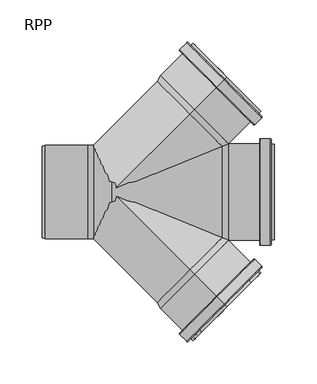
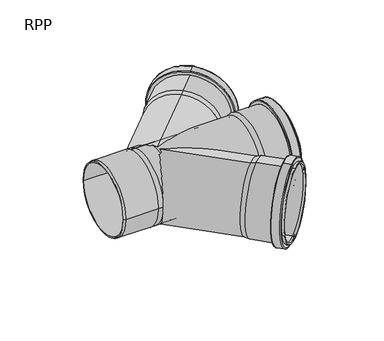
"""IFC4 building model written with IfcOpenShell, lengths in millimetres: pipe fitting geometry, RAUPIANO PLUS Double branch : RPP."""

from ifc_helpers import new_model, si_unit, point, frame, origin, place, context, project, spatial, polyline, circle_curve, ellipse_curve, trimmed, source, transform, mapped, element, save
from ifc_brep_helpers import plane_surface, cylinder_surface, revolved_surface, advanced_brep


def rpp_6e8c38e4(model_context):
    return source(origin(), model_context, "Body", "AdvancedBrep", [
        advanced_brep(
        [(130.4, 55.0, 0.0), (130.4, -55.0, 0.0), (137.6, -56.9292342, 0.0), (137.6, 56.9292342, 0.0), (0.0, 55.0, 0.0), (0.0, -55.0, 0.0), (-21.2659564, 55.0, 0.0), (-21.2659564, -55.0, 0.0), (-28.6, 55.0, 0.0), (-28.6, -55.0, 0.0), (-79.4, 55.0, 0.0), (-79.4, -55.0, 0.0), (-83.0, 54.0353829, 0.0), (-83.0, -54.0353829, 0.0), (-28.6, 52.3, 0.0), (-28.6, -52.3, 0.0), (-83.0, -52.3, 0.0), (-83.0, 52.3, 0.0), (-21.1883429, 52.3, 0.0), (-21.1883429, -52.3, 0.0), (0.0, 52.3, 0.0), (0.0, -52.3, 0.0), (130.4, 52.3, 0.0), (130.4, -52.3, 0.0), (137.6, 54.2292342, 0.0), (137.6, -54.2292342, 0.0), (188.4, 54.2292342, 0.0), (188.4, -54.2292342, 0.0), (192.0, 54.2292342, 0.0), (192.0, -54.2292342, 0.0), (188.4, 56.6076952, 0.0), (188.4, -56.6076952, 0.0), (192.0, -56.6076952, 0.0), (192.0, 56.6076952, 0.0), (187.4, 62.9292342, 0.0), (187.4, -62.9292342, 0.0), (188.4, -61.9292342, 0.0), (188.4, 61.9292342, 0.0), (175.5, 62.9292342, 0.0), (175.5, -62.9292342, 0.0), (174.5, 61.9292342, 0.0), (174.5, -61.9292342, 0.0), (174.5, -56.9292342, 0.0), (174.5, 56.9292342, 0.0)],
        [
            (0, 1, circle_curve(frame((130.4, 0.0, 0.0), z_axis=(1.0, 0.0, 0.0), x_axis=(0.0, -1.0, 0.0)), 55.0)),
            (1, 2),
            (2, 3, circle_curve(frame((137.6, 0.0, 0.0), z_axis=(-1.0, 0.0, 0.0), x_axis=(0.0, -1.0, 0.0)), 56.9292342)),
            (3, 0),
            (0, 4),
            (4, 5, circle_curve(frame((0.0, 0.0, 0.0), z_axis=(1.0, 0.0, 0.0), x_axis=(0.0, -1.0, 0.0)), 55.0)),
            (5, 1),
            (4, 6),
            (6, 7, circle_curve(frame((-21.2659564, 0.0, 0.0), z_axis=(1.0, 0.0, 0.0), x_axis=(0.0, -1.0, 0.0)), 55.0)),
            (7, 5),
            (6, 8),
            (8, 9, circle_curve(frame((-28.6, 0.0, 0.0), z_axis=(1.0, 0.0, 0.0), x_axis=(0.0, -1.0, 0.0)), 55.0)),
            (9, 7),
            (8, 10),
            (10, 11, circle_curve(frame((-79.4, 0.0, 0.0), z_axis=(1.0, 0.0, 0.0), x_axis=(0.0, -1.0, 0.0)), 55.0)),
            (11, 9),
            (10, 12),
            (12, 13, circle_curve(frame((-83.0, 0.0, 0.0), z_axis=(1.0, 0.0, 0.0), x_axis=(0.0, -1.0, 0.0)), 54.0353829)),
            (13, 11),
            (14, 15, circle_curve(frame((-28.6, 0.0, 0.0), z_axis=(1.0, 0.0, 0.0), x_axis=(0.0, -1.0, 0.0)), 52.3)),
            (15, 16),
            (16, 17, circle_curve(frame((-83.0, 0.0, 0.0), z_axis=(-1.0, 0.0, 0.0), x_axis=(0.0, -1.0, 0.0)), 52.3)),
            (17, 14),
            (14, 18),
            (18, 19, circle_curve(frame((-21.1883429, 0.0, 0.0), z_axis=(1.0, 0.0, 0.0), x_axis=(0.0, -1.0, 0.0)), 52.3)),
            (19, 15),
            (18, 20),
            (20, 21, circle_curve(frame((0.0, 0.0, 0.0), z_axis=(1.0, 0.0, 0.0), x_axis=(0.0, -1.0, 0.0)), 52.3)),
            (21, 19),
            (20, 22),
            (22, 23, circle_curve(frame((130.4, 0.0, 0.0), z_axis=(1.0, 0.0, 0.0), x_axis=(0.0, -1.0, 0.0)), 52.3)),
            (23, 21),
            (22, 24),
            (24, 25, circle_curve(frame((137.6, 0.0, 0.0), z_axis=(1.0, 0.0, 0.0), x_axis=(0.0, -1.0, 0.0)), 54.2292342)),
            (25, 23),
            (24, 26),
            (26, 27, circle_curve(frame((188.4, 0.0, 0.0), z_axis=(1.0, 0.0, 0.0), x_axis=(0.0, -1.0, 0.0)), 54.2292342)),
            (27, 25),
            (26, 28),
            (28, 29, circle_curve(frame((192.0, 0.0, 0.0), z_axis=(1.0, 0.0, 0.0), x_axis=(0.0, -1.0, 0.0)), 54.2292342)),
            (29, 27),
            (30, 31, circle_curve(frame((188.4, 0.0, 0.0), z_axis=(1.0, 0.0, 0.0), x_axis=(0.0, -1.0, 0.0)), 56.6076952)),
            (31, 32),
            (32, 33, circle_curve(frame((192.0, 0.0, 0.0), z_axis=(-1.0, 0.0, 0.0), x_axis=(0.0, -1.0, 0.0)), 56.6076952)),
            (33, 30),
            (34, 35, circle_curve(frame((187.4, 0.0, 0.0), z_axis=(1.0, 0.0, 0.0), x_axis=(0.0, -1.0, 0.0)), 62.9292342)),
            (35, 36, circle_curve(frame((187.4, -61.9292342, 0.0), z_axis=(0.0, 0.0, 1.0), x_axis=(1.0, 0.0, 0.0)), 1.0)),
            (36, 37, circle_curve(frame((188.4, 0.0, 0.0), z_axis=(-1.0, 0.0, 0.0), x_axis=(0.0, -1.0, 0.0)), 61.9292342)),
            (37, 34, circle_curve(frame((187.4, 61.9292342, 0.0), z_axis=(0.0, 0.0, 1.0), x_axis=(1.0, 0.0, 0.0)), 1.0)),
            (34, 38),
            (38, 39, circle_curve(frame((175.5, 0.0, 0.0), z_axis=(1.0, 0.0, 0.0), x_axis=(0.0, -1.0, 0.0)), 62.9292342)),
            (39, 35),
            (38, 40, circle_curve(frame((175.5, 61.9292342, 0.0), z_axis=(0.0, 0.0, 1.0), x_axis=(1.0, 0.0, 0.0)), 1.0)),
            (40, 41, circle_curve(frame((174.5, 0.0, 0.0), z_axis=(1.0, 0.0, 0.0), x_axis=(0.0, -1.0, 0.0)), 61.9292342)),
            (41, 39, circle_curve(frame((175.5, -61.9292342, 0.0), z_axis=(0.0, 0.0, 1.0), x_axis=(1.0, 0.0, 0.0)), 1.0)),
            (2, 42),
            (42, 43, circle_curve(frame((174.5, 0.0, 0.0), z_axis=(-1.0, 0.0, 0.0), x_axis=(0.0, -1.0, 0.0)), 56.9292342)),
            (43, 3),
            (1, 0, circle_curve(frame((130.4, 0.0, 0.0), z_axis=(1.0, 0.0, 0.0), x_axis=(0.0, 1.0, 0.0)), 55.0)),
            (3, 2, circle_curve(frame((137.6, 0.0, 0.0), z_axis=(-1.0, 0.0, 0.0), x_axis=(0.0, 1.0, 0.0)), 56.9292342)),
            (5, 4, circle_curve(frame((0.0, 0.0, 0.0), z_axis=(1.0, 0.0, 0.0), x_axis=(0.0, 1.0, 0.0)), 55.0)),
            (7, 6, circle_curve(frame((-21.2659564, 0.0, 0.0), z_axis=(1.0, 0.0, 0.0), x_axis=(0.0, 1.0, 0.0)), 55.0)),
            (9, 8, circle_curve(frame((-28.6, 0.0, 0.0), z_axis=(1.0, 0.0, 0.0), x_axis=(0.0, 1.0, 0.0)), 55.0)),
            (11, 10, circle_curve(frame((-79.4, 0.0, 0.0), z_axis=(1.0, 0.0, 0.0), x_axis=(0.0, 1.0, 0.0)), 55.0)),
            (13, 12, circle_curve(frame((-83.0, 0.0, 0.0), z_axis=(1.0, 0.0, 0.0), x_axis=(0.0, 1.0, 0.0)), 54.0353829)),
            (16, 17, circle_curve(frame((-83.0, 0.0, 0.0), z_axis=(1.0, 0.0, 0.0), x_axis=(0.0, 1.0, 0.0)), 52.3)),
            (15, 14, circle_curve(frame((-28.6, 0.0, 0.0), z_axis=(1.0, 0.0, 0.0), x_axis=(0.0, 1.0, 0.0)), 52.3)),
            (19, 18, circle_curve(frame((-21.1883429, 0.0, 0.0), z_axis=(1.0, 0.0, 0.0), x_axis=(0.0, 1.0, 0.0)), 52.3)),
            (21, 20, circle_curve(frame((0.0, 0.0, 0.0), z_axis=(1.0, 0.0, 0.0), x_axis=(0.0, 1.0, 0.0)), 52.3)),
            (23, 22, circle_curve(frame((130.4, 0.0, 0.0), z_axis=(1.0, 0.0, 0.0), x_axis=(0.0, 1.0, 0.0)), 52.3)),
            (25, 24, circle_curve(frame((137.6, 0.0, 0.0), z_axis=(1.0, 0.0, 0.0), x_axis=(0.0, 1.0, 0.0)), 54.2292342)),
            (27, 26, circle_curve(frame((188.4, 0.0, 0.0), z_axis=(1.0, 0.0, 0.0), x_axis=(0.0, 1.0, 0.0)), 54.2292342)),
            (29, 28, circle_curve(frame((192.0, 0.0, 0.0), z_axis=(1.0, 0.0, 0.0), x_axis=(0.0, 1.0, 0.0)), 54.2292342)),
            (32, 33, circle_curve(frame((192.0, 0.0, 0.0), z_axis=(1.0, 0.0, 0.0), x_axis=(0.0, 1.0, 0.0)), 56.6076952)),
            (31, 30, circle_curve(frame((188.4, 0.0, 0.0), z_axis=(1.0, 0.0, 0.0), x_axis=(0.0, 1.0, 0.0)), 56.6076952)),
            (36, 37, circle_curve(frame((188.4, 0.0, 0.0), z_axis=(1.0, 0.0, 0.0), x_axis=(0.0, 1.0, 0.0)), 61.9292342)),
            (35, 34, circle_curve(frame((187.4, 0.0, 0.0), z_axis=(1.0, 0.0, 0.0), x_axis=(0.0, 1.0, 0.0)), 62.9292342)),
            (39, 38, circle_curve(frame((175.5, 0.0, 0.0), z_axis=(1.0, 0.0, 0.0), x_axis=(0.0, 1.0, 0.0)), 62.9292342)),
            (41, 40, circle_curve(frame((174.5, 0.0, 0.0), z_axis=(1.0, 0.0, 0.0), x_axis=(0.0, 1.0, 0.0)), 61.9292342)),
            (42, 43, circle_curve(frame((174.5, 0.0, 0.0), z_axis=(1.0, 0.0, 0.0), x_axis=(0.0, 1.0, 0.0)), 56.9292342)),
        ],
        [
            revolved_surface(polyline([(137.6, -56.9292342, 0.0), (130.4, -55.0, 0.0)]), (0.0, 0.0, 0.0), (-1.0, 0.0, 0.0)),
            cylinder_surface(frame((0.0, 0.0, 0.0), z_axis=(-1.0, 0.0, 0.0), x_axis=(0.0, -1.0, 0.0)), 55.0),
            revolved_surface(polyline([(-79.4, -55.0, 0.0), (-83.0, -54.0353829, 0.0)]), (0.0, 0.0, 0.0), (-1.0, 0.0, 0.0)),
            revolved_surface(polyline([(-83.0, -52.3, 0.0), (-28.6, -52.3, 0.0)]), (0.0, 0.0, 0.0), (-1.0, 0.0, 0.0)),
            revolved_surface(polyline([(-28.6, -52.3, 0.0), (-21.1883429, -52.3, 0.0)]), (0.0, 0.0, 0.0), (-1.0, 0.0, 0.0)),
            revolved_surface(polyline([(-21.1883429, -52.3, 0.0), (0.0, -52.3, 0.0)]), (0.0, 0.0, 0.0), (-1.0, 0.0, 0.0)),
            revolved_surface(polyline([(0.0, -52.3, 0.0), (130.4, -52.3, 0.0)]), (0.0, 0.0, 0.0), (-1.0, 0.0, 0.0)),
            revolved_surface(polyline([(130.4, -52.3, 0.0), (137.6, -54.2292342, 0.0)]), (0.0, 0.0, 0.0), (-1.0, 0.0, 0.0)),
            revolved_surface(polyline([(137.6, -54.2292342, 0.0), (188.4, -54.2292342, 0.0)]), (0.0, 0.0, 0.0), (-1.0, 0.0, 0.0)),
            revolved_surface(polyline([(188.4, -54.2292342, 0.0), (192.0, -54.2292342, 0.0)]), (0.0, 0.0, 0.0), (-1.0, 0.0, 0.0)),
            cylinder_surface(frame((0.0, 0.0, 0.0), z_axis=(-1.0, 0.0, 0.0), x_axis=(0.0, -1.0, 0.0)), 56.6076952),
            revolved_surface(trimmed(ellipse_curve(frame((187.4, -61.9292342, 0.0), z_axis=(0.0, 0.0, -1.0), x_axis=(1.0, 0.0, 0.0)), 1.0, 1.0), [point((188.4, -61.9292342, 0.0))], [point((187.4, -62.9292342, 0.0))], True, "CARTESIAN"), (0.0, 0.0, 0.0), (-1.0, 0.0, 0.0)),
            cylinder_surface(frame((0.0, 0.0, 0.0), z_axis=(-1.0, 0.0, 0.0), x_axis=(0.0, -1.0, 0.0)), 62.9292342),
            revolved_surface(trimmed(ellipse_curve(frame((175.5, -61.9292342, 0.0), z_axis=(0.0, 0.0, -1.0), x_axis=(1.0, 0.0, 0.0)), 1.0, 1.0), [point((175.5, -62.9292342, 0.0))], [point((174.5, -61.9292342, 0.0))], True, "CARTESIAN"), (0.0, 0.0, 0.0), (-1.0, 0.0, 0.0)),
            cylinder_surface(frame((0.0, 0.0, 0.0), z_axis=(-1.0, 0.0, 0.0), x_axis=(0.0, -1.0, 0.0)), 56.9292342),
            revolved_surface(polyline([(137.6, 56.9292342, 0.0), (130.4, 55.0, 0.0)]), (0.0, 0.0, 0.0), (-1.0, 0.0, 0.0)),
            cylinder_surface(frame((0.0, 0.0, 0.0), z_axis=(-1.0, 0.0, 0.0), x_axis=(0.0, 1.0, 0.0)), 55.0),
            revolved_surface(polyline([(-79.4, 55.0, 0.0), (-83.0, 54.0353829, 0.0)]), (0.0, 0.0, 0.0), (-1.0, 0.0, 0.0)),
            plane_surface(frame((-83.0, 0.0, 0.0), z_axis=(-1.0, 0.0, 0.0), x_axis=(0.0, 1.0, 0.0))),
            revolved_surface(polyline([(-83.0, 52.3, 0.0), (-28.6, 52.3, 0.0)]), (0.0, 0.0, 0.0), (-1.0, 0.0, 0.0)),
            revolved_surface(polyline([(-28.6, 52.3, 0.0), (-21.1883429, 52.3, 0.0)]), (0.0, 0.0, 0.0), (-1.0, 0.0, 0.0)),
            revolved_surface(polyline([(-21.1883429, 52.3, 0.0), (0.0, 52.3, 0.0)]), (0.0, 0.0, 0.0), (-1.0, 0.0, 0.0)),
            revolved_surface(polyline([(0.0, 52.3, 0.0), (130.4, 52.3, 0.0)]), (0.0, 0.0, 0.0), (-1.0, 0.0, 0.0)),
            revolved_surface(polyline([(130.4, 52.3, 0.0), (137.6, 54.2292342, 0.0)]), (0.0, 0.0, 0.0), (-1.0, 0.0, 0.0)),
            revolved_surface(polyline([(137.6, 54.2292342, 0.0), (188.4, 54.2292342, 0.0)]), (0.0, 0.0, 0.0), (-1.0, 0.0, 0.0)),
            revolved_surface(polyline([(188.4, 54.2292342, 0.0), (192.0, 54.2292342, 0.0)]), (0.0, 0.0, 0.0), (-1.0, 0.0, 0.0)),
            plane_surface(frame((192.0, 0.0, 0.0), z_axis=(1.0, 0.0, 0.0), x_axis=(0.0, 1.0, 0.0))),
            cylinder_surface(frame((0.0, 0.0, 0.0), z_axis=(-1.0, 0.0, 0.0), x_axis=(0.0, 1.0, 0.0)), 56.6076952),
            plane_surface(frame((188.4, 0.0, 0.0), z_axis=(1.0, 0.0, 0.0), x_axis=(0.0, 1.0, 0.0))),
            revolved_surface(trimmed(ellipse_curve(frame((187.4, 61.9292342, 0.0), z_axis=(0.0, 0.0, 1.0), x_axis=(1.0, 0.0, 0.0)), 1.0, 1.0), [point((188.4, 61.9292342, 0.0))], [point((187.4, 62.9292342, 0.0))], True, "CARTESIAN"), (0.0, 0.0, 0.0), (-1.0, 0.0, 0.0)),
            cylinder_surface(frame((0.0, 0.0, 0.0), z_axis=(-1.0, 0.0, 0.0), x_axis=(0.0, 1.0, 0.0)), 62.9292342),
            revolved_surface(trimmed(ellipse_curve(frame((175.5, 61.9292342, 0.0), z_axis=(0.0, 0.0, 1.0), x_axis=(1.0, 0.0, 0.0)), 1.0, 1.0), [point((175.5, 62.9292342, 0.0))], [point((174.5, 61.9292342, 0.0))], True, "CARTESIAN"), (0.0, 0.0, 0.0), (-1.0, 0.0, 0.0)),
            plane_surface(frame((174.5, 0.0, 0.0), z_axis=(-1.0, 0.0, 0.0), x_axis=(0.0, 1.0, 0.0))),
            cylinder_surface(frame((0.0, 0.0, 0.0), z_axis=(-1.0, 0.0, 0.0), x_axis=(0.0, 1.0, 0.0)), 56.9292342),
        ],
        [
            (0, [[1, 2, 3, 4]]),
            (1, [[-1, 5, 6, 7]]),
            (1, [[-6, 8, 9, 10]]),
            (1, [[-9, 11, 12, 13]]),
            (1, [[-12, 14, 15, 16]]),
            (2, [[-15, 17, 18, 19]]),
            (3, [[20, 21, 22, 23]]),
            (4, [[-20, 24, 25, 26]]),
            (5, [[-25, 27, 28, 29]]),
            (6, [[-28, 30, 31, 32]]),
            (7, [[-31, 33, 34, 35]]),
            (8, [[-34, 36, 37, 38]]),
            (9, [[-37, 39, 40, 41]]),
            (10, [[42, 43, 44, 45]]),
            (11, [[46, 47, 48, 49]]),
            (12, [[-46, 50, 51, 52]]),
            (13, [[-51, 53, 54, 55]]),
            (14, [[-3, 56, 57, 58]]),
            (15, [[-2, 59, -4, 60]]),
            (16, [[-7, 61, -5, -59]]),
            (16, [[-10, 62, -8, -61]]),
            (16, [[-13, 63, -11, -62]]),
            (16, [[-16, 64, -14, -63]]),
            (17, [[-19, 65, -17, -64]]),
            (18, [[-18, -65], [-22, 66]]),
            (19, [[-21, 67, -23, -66]]),
            (20, [[-26, 68, -24, -67]]),
            (21, [[-29, 69, -27, -68]]),
            (22, [[-32, 70, -30, -69]]),
            (23, [[-35, 71, -33, -70]]),
            (24, [[-38, 72, -36, -71]]),
            (25, [[-41, 73, -39, -72]]),
            (26, [[-44, 74], [-40, -73]]),
            (27, [[-43, 75, -45, -74]]),
            (28, [[-48, 76], [-42, -75]]),
            (29, [[-47, 77, -49, -76]]),
            (30, [[-52, 78, -50, -77]]),
            (31, [[-55, 79, -53, -78]]),
            (32, [[-54, -79], [-57, 80]]),
            (33, [[-56, -60, -58, -80]]),
        ],
    ),
        advanced_brep(
        [(92.2067243, -92.2067243, 55.0), (92.2067243, -92.2067243, -55.0), (97.2978931, -97.2978931, -56.9292342), (97.2978931, -97.2978931, 56.9292342), (97.2978931, -97.2978931, 54.2292342), (97.2978931, -97.2978931, -54.2292342), (92.2067243, -92.2067243, -52.3), (92.2067243, -92.2067243, 52.3), (133.2189176, -133.2189176, 54.2292342), (133.2189176, -133.2189176, -54.2292342), (135.764502, -135.764502, 54.2292342), (135.764502, -135.764502, -54.2292342), (133.2189176, -133.2189176, 56.6076952), (133.2189176, -133.2189176, -56.6076952), (135.764502, -135.764502, -56.6076952), (135.764502, -135.764502, 56.6076952), (132.5118108, -132.5118108, 62.9292342), (132.5118108, -132.5118108, -62.9292342), (133.2189176, -133.2189176, -61.9292342), (133.2189176, -133.2189176, 61.9292342), (124.0972401, -124.0972401, 62.9292342), (124.0972401, -124.0972401, -62.9292342), (123.3901333, -123.3901333, 61.9292342), (123.3901333, -123.3901333, -61.9292342), (123.3901333, -123.3901333, -56.9292342), (123.3901333, -123.3901333, 56.9292342)],
        [
            (0, 1, circle_curve(frame((92.2067243, -92.2067243, 0.0), z_axis=(0.7071067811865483, -0.7071067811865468, 0.0), x_axis=(0.0, 0.0, -1.0)), 55.0)),
            (1, 2),
            (2, 3, circle_curve(frame((97.2978931, -97.2978931, 0.0), z_axis=(-0.7071067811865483, 0.7071067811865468, 0.0), x_axis=(0.0, 0.0, -1.0)), 56.9292342)),
            (3, 0),
            (4, 5, circle_curve(frame((97.2978931, -97.2978931, 0.0), z_axis=(0.7071067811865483, -0.7071067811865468, 0.0), x_axis=(0.0, 0.0, -1.0)), 54.2292342)),
            (5, 6),
            (6, 7, circle_curve(frame((92.2067243, -92.2067243, 0.0), z_axis=(-0.7071067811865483, 0.7071067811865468, 0.0), x_axis=(0.0, 0.0, -1.0)), 52.3)),
            (7, 4),
            (8, 9, circle_curve(frame((133.2189176, -133.2189176, 0.0), z_axis=(0.7071067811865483, -0.7071067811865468, 0.0), x_axis=(0.0, 0.0, -1.0)), 54.2292342)),
            (9, 5),
            (4, 8),
            (10, 11, circle_curve(frame((135.764502, -135.764502, 0.0), z_axis=(0.7071067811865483, -0.7071067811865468, 0.0), x_axis=(0.0, 0.0, -1.0)), 54.2292342)),
            (11, 9),
            (8, 10),
            (12, 13, circle_curve(frame((133.2189176, -133.2189176, 0.0), z_axis=(0.7071067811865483, -0.7071067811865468, 0.0), x_axis=(0.0, 0.0, -1.0)), 56.6076952)),
            (13, 14),
            (14, 15, circle_curve(frame((135.764502, -135.764502, 0.0), z_axis=(-0.7071067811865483, 0.7071067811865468, 0.0), x_axis=(0.0, 0.0, -1.0)), 56.6076952)),
            (15, 12),
            (16, 17, circle_curve(frame((132.5118108, -132.5118108, 0.0), z_axis=(0.7071067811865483, -0.7071067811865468, 0.0), x_axis=(0.0, 0.0, -1.0)), 62.9292342)),
            (17, 18, circle_curve(frame((132.5118108, -132.5118108, -61.9292342), z_axis=(-0.7071067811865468, -0.7071067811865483, 0.0), x_axis=(0.7071067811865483, -0.7071067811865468, 0.0)), 1.0)),
            (18, 19, circle_curve(frame((133.2189176, -133.2189176, 0.0), z_axis=(-0.7071067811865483, 0.7071067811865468, 0.0), x_axis=(0.0, 0.0, -1.0)), 61.9292342)),
            (19, 16, circle_curve(frame((132.5118108, -132.5118108, 61.9292342), z_axis=(-0.7071067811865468, -0.7071067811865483, 0.0), x_axis=(0.7071067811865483, -0.7071067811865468, 0.0)), 1.0)),
            (20, 21, circle_curve(frame((124.0972401, -124.0972401, 0.0), z_axis=(0.7071067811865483, -0.7071067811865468, 0.0), x_axis=(0.0, 0.0, -1.0)), 62.9292342)),
            (21, 17),
            (16, 20),
            (22, 23, circle_curve(frame((123.3901333, -123.3901333, 0.0), z_axis=(0.7071067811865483, -0.7071067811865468, 0.0), x_axis=(0.0, 0.0, -1.0)), 61.9292342)),
            (23, 21, circle_curve(frame((124.0972401, -124.0972401, -61.9292342), z_axis=(-0.7071067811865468, -0.7071067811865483, 0.0), x_axis=(0.7071067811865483, -0.7071067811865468, 0.0)), 1.0)),
            (20, 22, circle_curve(frame((124.0972401, -124.0972401, 61.9292342), z_axis=(-0.7071067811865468, -0.7071067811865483, 0.0), x_axis=(0.7071067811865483, -0.7071067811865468, 0.0)), 1.0)),
            (2, 24),
            (24, 25, circle_curve(frame((123.3901333, -123.3901333, 0.0), z_axis=(-0.7071067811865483, 0.7071067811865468, 0.0), x_axis=(0.0, 0.0, -1.0)), 56.9292342)),
            (25, 3),
            (1, 0, circle_curve(frame((92.2067243, -92.2067243, 0.0), z_axis=(0.7071067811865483, -0.7071067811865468, 0.0), x_axis=(0.0, 0.0, 1.0)), 55.0)),
            (3, 2, circle_curve(frame((97.2978931, -97.2978931, 0.0), z_axis=(-0.7071067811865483, 0.7071067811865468, 0.0), x_axis=(0.0, 0.0, 1.0)), 56.9292342)),
            (6, 7, circle_curve(frame((92.2067243, -92.2067243, 0.0), z_axis=(0.7071067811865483, -0.7071067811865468, 0.0), x_axis=(0.0, 0.0, 1.0)), 52.3)),
            (5, 4, circle_curve(frame((97.2978931, -97.2978931, 0.0), z_axis=(0.7071067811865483, -0.7071067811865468, 0.0), x_axis=(0.0, 0.0, 1.0)), 54.2292342)),
            (9, 8, circle_curve(frame((133.2189176, -133.2189176, 0.0), z_axis=(0.7071067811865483, -0.7071067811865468, 0.0), x_axis=(0.0, 0.0, 1.0)), 54.2292342)),
            (11, 10, circle_curve(frame((135.764502, -135.764502, 0.0), z_axis=(0.7071067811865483, -0.7071067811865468, 0.0), x_axis=(0.0, 0.0, 1.0)), 54.2292342)),
            (14, 15, circle_curve(frame((135.764502, -135.764502, 0.0), z_axis=(0.7071067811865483, -0.7071067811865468, 0.0), x_axis=(0.0, 0.0, 1.0)), 56.6076952)),
            (13, 12, circle_curve(frame((133.2189176, -133.2189176, 0.0), z_axis=(0.7071067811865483, -0.7071067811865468, 0.0), x_axis=(0.0, 0.0, 1.0)), 56.6076952)),
            (18, 19, circle_curve(frame((133.2189176, -133.2189176, 0.0), z_axis=(0.7071067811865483, -0.7071067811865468, 0.0), x_axis=(0.0, 0.0, 1.0)), 61.9292342)),
            (17, 16, circle_curve(frame((132.5118108, -132.5118108, 0.0), z_axis=(0.7071067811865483, -0.7071067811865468, 0.0), x_axis=(0.0, 0.0, 1.0)), 62.9292342)),
            (21, 20, circle_curve(frame((124.0972401, -124.0972401, 0.0), z_axis=(0.7071067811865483, -0.7071067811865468, 0.0), x_axis=(0.0, 0.0, 1.0)), 62.9292342)),
            (23, 22, circle_curve(frame((123.3901333, -123.3901333, 0.0), z_axis=(0.7071067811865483, -0.7071067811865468, 0.0), x_axis=(0.0, 0.0, 1.0)), 61.9292342)),
            (24, 25, circle_curve(frame((123.3901333, -123.3901333, 0.0), z_axis=(0.7071067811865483, -0.7071067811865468, 0.0), x_axis=(0.0, 0.0, 1.0)), 56.9292342)),
        ],
        [
            revolved_surface(polyline([(97.2978931, -97.2978931, -56.9292342), (92.2067243, -92.2067243, -55.0)]), (0.0, 0.0, 0.0), (-0.7071067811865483, 0.7071067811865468, 0.0)),
            revolved_surface(polyline([(92.2067243, -92.2067243, -52.3), (97.2978931, -97.2978931, -54.2292342)]), (0.0, 0.0, 0.0), (-0.7071067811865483, 0.7071067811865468, 0.0)),
            revolved_surface(polyline([(97.29789310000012, -97.29789309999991, -54.2292342), (133.21891760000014, -133.21891759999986, -54.2292342)]), (0.0, 0.0, 0.0), (-0.7071067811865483, 0.7071067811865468, 0.0)),
            revolved_surface(polyline([(133.21891760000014, -133.21891759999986, -54.2292342), (135.76450200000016, -135.76450199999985, -54.2292342)]), (0.0, 0.0, 0.0), (-0.7071067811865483, 0.7071067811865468, 0.0)),
            cylinder_surface(frame((0.0, 0.0, 0.0), z_axis=(-0.7071067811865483, 0.7071067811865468, 0.0), x_axis=(0.0, 0.0, -1.0)), 56.6076952),
            revolved_surface(trimmed(ellipse_curve(frame((132.5118108, -132.5118108, -61.9292342), z_axis=(0.7071067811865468, 0.7071067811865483, 0.0), x_axis=(0.7071067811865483, -0.7071067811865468, 0.0)), 1.0, 1.0), [point((133.2189176, -133.2189176, -61.9292342))], [point((132.5118108, -132.5118108, -62.9292342))], True, "CARTESIAN"), (0.0, 0.0, 0.0), (-0.7071067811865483, 0.7071067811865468, 0.0)),
            cylinder_surface(frame((0.0, 0.0, 0.0), z_axis=(-0.7071067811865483, 0.7071067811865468, 0.0), x_axis=(0.0, 0.0, -1.0)), 62.9292342),
            revolved_surface(trimmed(ellipse_curve(frame((124.0972401, -124.0972401, -61.9292342), z_axis=(0.7071067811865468, 0.7071067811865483, 0.0), x_axis=(0.7071067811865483, -0.7071067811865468, 0.0)), 1.0, 1.0), [point((124.0972401, -124.0972401, -62.9292342))], [point((123.3901333, -123.3901333, -61.9292342))], True, "CARTESIAN"), (0.0, 0.0, 0.0), (-0.7071067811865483, 0.7071067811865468, 0.0)),
            cylinder_surface(frame((0.0, 0.0, 0.0), z_axis=(-0.7071067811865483, 0.7071067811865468, 0.0), x_axis=(0.0, 0.0, -1.0)), 56.9292342),
            revolved_surface(polyline([(97.2978931, -97.2978931, 56.9292342), (92.2067243, -92.2067243, 55.0)]), (0.0, 0.0, 0.0), (-0.7071067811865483, 0.7071067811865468, 0.0)),
            plane_surface(frame((92.2067243, -92.2067243, 0.0), z_axis=(-0.7071067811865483, 0.7071067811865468, 0.0), x_axis=(0.0, 0.0, 1.0))),
            revolved_surface(polyline([(92.2067243, -92.2067243, 52.3), (97.2978931, -97.2978931, 54.2292342)]), (0.0, 0.0, 0.0), (-0.7071067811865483, 0.7071067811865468, 0.0)),
            revolved_surface(polyline([(97.29789310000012, -97.29789309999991, 54.2292342), (133.21891760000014, -133.21891759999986, 54.2292342)]), (0.0, 0.0, 0.0), (-0.7071067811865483, 0.7071067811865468, 0.0)),
            revolved_surface(polyline([(133.21891760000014, -133.21891759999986, 54.2292342), (135.76450200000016, -135.76450199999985, 54.2292342)]), (0.0, 0.0, 0.0), (-0.7071067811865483, 0.7071067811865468, 0.0)),
            plane_surface(frame((135.764502, -135.764502, 0.0), z_axis=(0.7071067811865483, -0.7071067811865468, 0.0), x_axis=(0.0, 0.0, 1.0))),
            cylinder_surface(frame((0.0, 0.0, 0.0), z_axis=(-0.7071067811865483, 0.7071067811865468, 0.0), x_axis=(0.0, 0.0, 1.0)), 56.6076952),
            plane_surface(frame((133.2189176, -133.2189176, 0.0), z_axis=(0.7071067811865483, -0.7071067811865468, 0.0), x_axis=(0.0, 0.0, 1.0))),
            revolved_surface(trimmed(ellipse_curve(frame((132.5118108, -132.5118108, 61.9292342), z_axis=(-0.7071067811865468, -0.7071067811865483, 0.0), x_axis=(0.7071067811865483, -0.7071067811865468, 0.0)), 1.0, 1.0), [point((133.2189176, -133.2189176, 61.9292342))], [point((132.5118108, -132.5118108, 62.9292342))], True, "CARTESIAN"), (0.0, 0.0, 0.0), (-0.7071067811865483, 0.7071067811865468, 0.0)),
            cylinder_surface(frame((0.0, 0.0, 0.0), z_axis=(-0.7071067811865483, 0.7071067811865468, 0.0), x_axis=(0.0, 0.0, 1.0)), 62.9292342),
            revolved_surface(trimmed(ellipse_curve(frame((124.0972401, -124.0972401, 61.9292342), z_axis=(-0.7071067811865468, -0.7071067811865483, 0.0), x_axis=(0.7071067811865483, -0.7071067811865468, 0.0)), 1.0, 1.0), [point((124.0972401, -124.0972401, 62.9292342))], [point((123.3901333, -123.3901333, 61.9292342))], True, "CARTESIAN"), (0.0, 0.0, 0.0), (-0.7071067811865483, 0.7071067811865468, 0.0)),
            plane_surface(frame((123.3901333, -123.3901333, 0.0), z_axis=(-0.7071067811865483, 0.7071067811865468, 0.0), x_axis=(0.0, 0.0, 1.0))),
            cylinder_surface(frame((0.0, 0.0, 0.0), z_axis=(-0.7071067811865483, 0.7071067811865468, 0.0), x_axis=(0.0, 0.0, 1.0)), 56.9292342),
        ],
        [
            (0, [[1, 2, 3, 4]]),
            (1, [[5, 6, 7, 8]]),
            (2, [[9, 10, -5, 11]]),
            (3, [[12, 13, -9, 14]]),
            (4, [[15, 16, 17, 18]]),
            (5, [[19, 20, 21, 22]]),
            (6, [[23, 24, -19, 25]]),
            (7, [[26, 27, -23, 28]]),
            (8, [[-3, 29, 30, 31]]),
            (9, [[32, -4, 33, -2]]),
            (10, [[-32, -1], [34, -7]]),
            (11, [[35, -8, -34, -6]]),
            (12, [[36, -11, -35, -10]]),
            (13, [[37, -14, -36, -13]]),
            (14, [[38, -17], [-37, -12]]),
            (15, [[39, -18, -38, -16]]),
            (16, [[40, -21], [-39, -15]]),
            (17, [[41, -22, -40, -20]]),
            (18, [[42, -25, -41, -24]]),
            (19, [[43, -28, -42, -27]]),
            (20, [[-43, -26], [44, -30]]),
            (21, [[-33, -31, -44, -29]]),
        ],
    ),
        advanced_brep(
        [(92.2067243, -92.2067243, 55.0), (92.2067243, -92.2067243, -55.0), (97.2978931, -97.2978931, -56.9292342), (97.2978931, -97.2978931, 56.9292342), (0.0, 0.0, 55.0), (0.0, 0.0, -55.0), (92.2067243, -92.2067243, 52.3), (92.2067243, -92.2067243, -52.3), (0.0, 0.0, -52.3), (0.0, 0.0, 52.3), (97.2978931, -97.2978931, 54.2292342), (97.2978931, -97.2978931, -54.2292342), (133.2189176, -133.2189176, 54.2292342), (133.2189176, -133.2189176, -54.2292342), (135.764502, -135.764502, 54.2292342), (135.764502, -135.764502, -54.2292342), (133.2189176, -133.2189176, 56.9292342), (133.2189176, -133.2189176, -56.9292342), (135.764502, -135.764502, -56.9292342), (135.764502, -135.764502, 56.9292342), (132.5118108, -132.5118108, 62.9292342), (132.5118108, -132.5118108, -62.9292342), (133.2189176, -133.2189176, -61.9292342), (133.2189176, -133.2189176, 61.9292342), (124.0972401, -124.0972401, 62.9292342), (124.0972401, -124.0972401, -62.9292342), (123.3901333, -123.3901333, 61.9292342), (123.3901333, -123.3901333, -61.9292342), (123.3901333, -123.3901333, -56.9292342), (123.3901333, -123.3901333, 56.9292342)],
        [
            (0, 1, circle_curve(frame((92.2067243, -92.2067243, 0.0), z_axis=(0.7071067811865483, -0.7071067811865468, 0.0), x_axis=(0.0, 0.0, -1.0)), 55.0)),
            (1, 2),
            (2, 3, circle_curve(frame((97.2978931, -97.2978931, 0.0), z_axis=(-0.7071067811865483, 0.7071067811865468, 0.0), x_axis=(0.0, 0.0, -1.0)), 56.9292342)),
            (3, 0),
            (4, 5, circle_curve(frame((0.0, 0.0, 0.0), z_axis=(0.7071067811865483, -0.7071067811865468, 0.0), x_axis=(0.0, 0.0, -1.0)), 55.0)),
            (5, 1),
            (0, 4),
            (6, 7, circle_curve(frame((92.2067243, -92.2067243, 0.0), z_axis=(0.7071067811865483, -0.7071067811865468, 0.0), x_axis=(0.0, 0.0, -1.0)), 52.3)),
            (7, 8),
            (8, 9, circle_curve(frame((0.0, 0.0, 0.0), z_axis=(-0.7071067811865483, 0.7071067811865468, 0.0), x_axis=(0.0, 0.0, -1.0)), 52.3)),
            (9, 6),
            (10, 11, circle_curve(frame((97.2978931, -97.2978931, 0.0), z_axis=(0.7071067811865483, -0.7071067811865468, 0.0), x_axis=(0.0, 0.0, -1.0)), 54.2292342)),
            (11, 7),
            (6, 10),
            (12, 13, circle_curve(frame((133.2189176, -133.2189176, 0.0), z_axis=(0.7071067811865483, -0.7071067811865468, 0.0), x_axis=(0.0, 0.0, -1.0)), 54.2292342)),
            (13, 11),
            (10, 12),
            (14, 15, circle_curve(frame((135.764502, -135.764502, 0.0), z_axis=(0.7071067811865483, -0.7071067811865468, 0.0), x_axis=(0.0, 0.0, -1.0)), 54.2292342)),
            (15, 13),
            (12, 14),
            (16, 17, circle_curve(frame((133.2189176, -133.2189176, 0.0), z_axis=(0.7071067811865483, -0.7071067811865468, 0.0), x_axis=(0.0, 0.0, -1.0)), 56.9292342)),
            (17, 18),
            (18, 19, circle_curve(frame((135.764502, -135.764502, 0.0), z_axis=(-0.7071067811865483, 0.7071067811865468, 0.0), x_axis=(0.0, 0.0, -1.0)), 56.9292342)),
            (19, 16),
            (20, 21, circle_curve(frame((132.5118108, -132.5118108, 0.0), z_axis=(0.7071067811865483, -0.7071067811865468, 0.0), x_axis=(0.0, 0.0, -1.0)), 62.9292342)),
            (21, 22, circle_curve(frame((132.5118108, -132.5118108, -61.9292342), z_axis=(-0.7071067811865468, -0.7071067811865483, 0.0), x_axis=(0.7071067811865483, -0.7071067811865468, 0.0)), 1.0)),
            (22, 23, circle_curve(frame((133.2189176, -133.2189176, 0.0), z_axis=(-0.7071067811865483, 0.7071067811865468, 0.0), x_axis=(0.0, 0.0, -1.0)), 61.9292342)),
            (23, 20, circle_curve(frame((132.5118108, -132.5118108, 61.9292342), z_axis=(-0.7071067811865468, -0.7071067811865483, 0.0), x_axis=(0.7071067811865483, -0.7071067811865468, 0.0)), 1.0)),
            (24, 25, circle_curve(frame((124.0972401, -124.0972401, 0.0), z_axis=(0.7071067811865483, -0.7071067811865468, 0.0), x_axis=(0.0, 0.0, -1.0)), 62.9292342)),
            (25, 21),
            (20, 24),
            (26, 27, circle_curve(frame((123.3901333, -123.3901333, 0.0), z_axis=(0.7071067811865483, -0.7071067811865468, 0.0), x_axis=(0.0, 0.0, -1.0)), 61.9292342)),
            (27, 25, circle_curve(frame((124.0972401, -124.0972401, -61.9292342), z_axis=(-0.7071067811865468, -0.7071067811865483, 0.0), x_axis=(0.7071067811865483, -0.7071067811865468, 0.0)), 1.0)),
            (24, 26, circle_curve(frame((124.0972401, -124.0972401, 61.9292342), z_axis=(-0.7071067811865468, -0.7071067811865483, 0.0), x_axis=(0.7071067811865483, -0.7071067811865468, 0.0)), 1.0)),
            (2, 28),
            (28, 29, circle_curve(frame((123.3901333, -123.3901333, 0.0), z_axis=(-0.7071067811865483, 0.7071067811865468, 0.0), x_axis=(0.0, 0.0, -1.0)), 56.9292342)),
            (29, 3),
            (1, 0, circle_curve(frame((92.2067243, -92.2067243, 0.0), z_axis=(0.7071067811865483, -0.7071067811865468, 0.0), x_axis=(0.0, 0.0, 1.0)), 55.0)),
            (3, 2, circle_curve(frame((97.2978931, -97.2978931, 0.0), z_axis=(-0.7071067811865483, 0.7071067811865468, 0.0), x_axis=(0.0, 0.0, 1.0)), 56.9292342)),
            (5, 4, circle_curve(frame((0.0, 0.0, 0.0), z_axis=(0.7071067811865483, -0.7071067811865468, 0.0), x_axis=(0.0, 0.0, 1.0)), 55.0)),
            (8, 9, circle_curve(frame((0.0, 0.0, 0.0), z_axis=(0.7071067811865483, -0.7071067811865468, 0.0), x_axis=(0.0, 0.0, 1.0)), 52.3)),
            (7, 6, circle_curve(frame((92.2067243, -92.2067243, 0.0), z_axis=(0.7071067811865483, -0.7071067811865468, 0.0), x_axis=(0.0, 0.0, 1.0)), 52.3)),
            (11, 10, circle_curve(frame((97.2978931, -97.2978931, 0.0), z_axis=(0.7071067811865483, -0.7071067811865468, 0.0), x_axis=(0.0, 0.0, 1.0)), 54.2292342)),
            (13, 12, circle_curve(frame((133.2189176, -133.2189176, 0.0), z_axis=(0.7071067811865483, -0.7071067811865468, 0.0), x_axis=(0.0, 0.0, 1.0)), 54.2292342)),
            (15, 14, circle_curve(frame((135.764502, -135.764502, 0.0), z_axis=(0.7071067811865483, -0.7071067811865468, 0.0), x_axis=(0.0, 0.0, 1.0)), 54.2292342)),
            (18, 19, circle_curve(frame((135.764502, -135.764502, 0.0), z_axis=(0.7071067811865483, -0.7071067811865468, 0.0), x_axis=(0.0, 0.0, 1.0)), 56.9292342)),
            (17, 16, circle_curve(frame((133.2189176, -133.2189176, 0.0), z_axis=(0.7071067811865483, -0.7071067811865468, 0.0), x_axis=(0.0, 0.0, 1.0)), 56.9292342)),
            (22, 23, circle_curve(frame((133.2189176, -133.2189176, 0.0), z_axis=(0.7071067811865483, -0.7071067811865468, 0.0), x_axis=(0.0, 0.0, 1.0)), 61.9292342)),
            (21, 20, circle_curve(frame((132.5118108, -132.5118108, 0.0), z_axis=(0.7071067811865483, -0.7071067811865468, 0.0), x_axis=(0.0, 0.0, 1.0)), 62.9292342)),
            (25, 24, circle_curve(frame((124.0972401, -124.0972401, 0.0), z_axis=(0.7071067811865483, -0.7071067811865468, 0.0), x_axis=(0.0, 0.0, 1.0)), 62.9292342)),
            (27, 26, circle_curve(frame((123.3901333, -123.3901333, 0.0), z_axis=(0.7071067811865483, -0.7071067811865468, 0.0), x_axis=(0.0, 0.0, 1.0)), 61.9292342)),
            (28, 29, circle_curve(frame((123.3901333, -123.3901333, 0.0), z_axis=(0.7071067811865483, -0.7071067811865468, 0.0), x_axis=(0.0, 0.0, 1.0)), 56.9292342)),
        ],
        [
            revolved_surface(polyline([(97.2978931, -97.2978931, -56.9292342), (92.2067243, -92.2067243, -55.0)]), (0.0, 0.0, 0.0), (-0.7071067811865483, 0.7071067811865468, 0.0)),
            cylinder_surface(frame((0.0, 0.0, 0.0), z_axis=(-0.7071067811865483, 0.7071067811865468, 0.0), x_axis=(0.0, 0.0, -1.0)), 55.0),
            revolved_surface(polyline([(0.0, 0.0, -52.3), (92.20672430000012, -92.2067242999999, -52.3)]), (0.0, 0.0, 0.0), (-0.7071067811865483, 0.7071067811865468, 0.0)),
            revolved_surface(polyline([(92.2067243, -92.2067243, -52.3), (97.2978931, -97.2978931, -54.2292342)]), (0.0, 0.0, 0.0), (-0.7071067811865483, 0.7071067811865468, 0.0)),
            revolved_surface(polyline([(97.29789310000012, -97.29789309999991, -54.2292342), (133.21891760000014, -133.21891759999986, -54.2292342)]), (0.0, 0.0, 0.0), (-0.7071067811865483, 0.7071067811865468, 0.0)),
            revolved_surface(polyline([(133.21891760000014, -133.21891759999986, -54.2292342), (135.76450200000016, -135.76450199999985, -54.2292342)]), (0.0, 0.0, 0.0), (-0.7071067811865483, 0.7071067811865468, 0.0)),
            cylinder_surface(frame((0.0, 0.0, 0.0), z_axis=(-0.7071067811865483, 0.7071067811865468, 0.0), x_axis=(0.0, 0.0, -1.0)), 56.9292342),
            revolved_surface(trimmed(ellipse_curve(frame((132.5118108, -132.5118108, -61.9292342), z_axis=(0.7071067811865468, 0.7071067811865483, 0.0), x_axis=(0.7071067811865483, -0.7071067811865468, 0.0)), 1.0, 1.0), [point((133.2189176, -133.2189176, -61.9292342))], [point((132.5118108, -132.5118108, -62.9292342))], True, "CARTESIAN"), (0.0, 0.0, 0.0), (-0.7071067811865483, 0.7071067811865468, 0.0)),
            cylinder_surface(frame((0.0, 0.0, 0.0), z_axis=(-0.7071067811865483, 0.7071067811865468, 0.0), x_axis=(0.0, 0.0, -1.0)), 62.9292342),
            revolved_surface(trimmed(ellipse_curve(frame((124.0972401, -124.0972401, -61.9292342), z_axis=(0.7071067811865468, 0.7071067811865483, 0.0), x_axis=(0.7071067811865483, -0.7071067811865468, 0.0)), 1.0, 1.0), [point((124.0972401, -124.0972401, -62.9292342))], [point((123.3901333, -123.3901333, -61.9292342))], True, "CARTESIAN"), (0.0, 0.0, 0.0), (-0.7071067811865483, 0.7071067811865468, 0.0)),
            revolved_surface(polyline([(97.2978931, -97.2978931, 56.9292342), (92.2067243, -92.2067243, 55.0)]), (0.0, 0.0, 0.0), (-0.7071067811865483, 0.7071067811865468, 0.0)),
            cylinder_surface(frame((0.0, 0.0, 0.0), z_axis=(-0.7071067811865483, 0.7071067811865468, 0.0), x_axis=(0.0, 0.0, 1.0)), 55.0),
            plane_surface(frame((0.0, 0.0, 0.0), z_axis=(-0.7071067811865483, 0.7071067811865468, 0.0), x_axis=(0.0, 0.0, 1.0))),
            revolved_surface(polyline([(0.0, 0.0, 52.3), (92.20672430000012, -92.2067242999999, 52.3)]), (0.0, 0.0, 0.0), (-0.7071067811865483, 0.7071067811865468, 0.0)),
            revolved_surface(polyline([(92.2067243, -92.2067243, 52.3), (97.2978931, -97.2978931, 54.2292342)]), (0.0, 0.0, 0.0), (-0.7071067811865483, 0.7071067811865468, 0.0)),
            revolved_surface(polyline([(97.29789310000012, -97.29789309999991, 54.2292342), (133.21891760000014, -133.21891759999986, 54.2292342)]), (0.0, 0.0, 0.0), (-0.7071067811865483, 0.7071067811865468, 0.0)),
            revolved_surface(polyline([(133.21891760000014, -133.21891759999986, 54.2292342), (135.76450200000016, -135.76450199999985, 54.2292342)]), (0.0, 0.0, 0.0), (-0.7071067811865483, 0.7071067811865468, 0.0)),
            plane_surface(frame((135.764502, -135.764502, 0.0), z_axis=(0.7071067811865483, -0.7071067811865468, 0.0), x_axis=(0.0, 0.0, 1.0))),
            cylinder_surface(frame((0.0, 0.0, 0.0), z_axis=(-0.7071067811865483, 0.7071067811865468, 0.0), x_axis=(0.0, 0.0, 1.0)), 56.9292342),
            plane_surface(frame((133.2189176, -133.2189176, 0.0), z_axis=(0.7071067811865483, -0.7071067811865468, 0.0), x_axis=(0.0, 0.0, 1.0))),
            revolved_surface(trimmed(ellipse_curve(frame((132.5118108, -132.5118108, 61.9292342), z_axis=(-0.7071067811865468, -0.7071067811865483, 0.0), x_axis=(0.7071067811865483, -0.7071067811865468, 0.0)), 1.0, 1.0), [point((133.2189176, -133.2189176, 61.9292342))], [point((132.5118108, -132.5118108, 62.9292342))], True, "CARTESIAN"), (0.0, 0.0, 0.0), (-0.7071067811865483, 0.7071067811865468, 0.0)),
            cylinder_surface(frame((0.0, 0.0, 0.0), z_axis=(-0.7071067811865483, 0.7071067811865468, 0.0), x_axis=(0.0, 0.0, 1.0)), 62.9292342),
            revolved_surface(trimmed(ellipse_curve(frame((124.0972401, -124.0972401, 61.9292342), z_axis=(-0.7071067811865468, -0.7071067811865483, 0.0), x_axis=(0.7071067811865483, -0.7071067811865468, 0.0)), 1.0, 1.0), [point((124.0972401, -124.0972401, 62.9292342))], [point((123.3901333, -123.3901333, 61.9292342))], True, "CARTESIAN"), (0.0, 0.0, 0.0), (-0.7071067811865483, 0.7071067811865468, 0.0)),
            plane_surface(frame((123.3901333, -123.3901333, 0.0), z_axis=(-0.7071067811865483, 0.7071067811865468, 0.0), x_axis=(0.0, 0.0, 1.0))),
        ],
        [
            (0, [[1, 2, 3, 4]]),
            (1, [[5, 6, -1, 7]]),
            (2, [[8, 9, 10, 11]]),
            (3, [[12, 13, -8, 14]]),
            (4, [[15, 16, -12, 17]]),
            (5, [[18, 19, -15, 20]]),
            (6, [[21, 22, 23, 24]]),
            (7, [[25, 26, 27, 28]]),
            (8, [[29, 30, -25, 31]]),
            (9, [[32, 33, -29, 34]]),
            (6, [[-3, 35, 36, 37]]),
            (10, [[38, -4, 39, -2]]),
            (11, [[40, -7, -38, -6]]),
            (12, [[-40, -5], [41, -10]]),
            (13, [[42, -11, -41, -9]]),
            (14, [[43, -14, -42, -13]]),
            (15, [[44, -17, -43, -16]]),
            (16, [[45, -20, -44, -19]]),
            (17, [[46, -23], [-45, -18]]),
            (18, [[47, -24, -46, -22]]),
            (19, [[48, -27], [-47, -21]]),
            (20, [[49, -28, -48, -26]]),
            (21, [[50, -31, -49, -30]]),
            (22, [[51, -34, -50, -33]]),
            (23, [[-51, -32], [52, -36]]),
            (18, [[-39, -37, -52, -35]]),
        ],
    ),
        advanced_brep(
        [(92.2067243, 92.2067243, 55.0), (92.2067243, 92.2067243, -55.0), (97.2978931, 97.2978931, -56.9292342), (97.2978931, 97.2978931, 56.9292342), (0.0, 0.0, 55.0), (0.0, 0.0, -55.0), (92.2067243, 92.2067243, 52.3), (92.2067243, 92.2067243, -52.3), (0.0, 0.0, -52.3), (0.0, 0.0, 52.3), (97.2978931, 97.2978931, 54.2292342), (97.2978931, 97.2978931, -54.2292342), (133.2189176, 133.2189176, 54.2292342), (133.2189176, 133.2189176, -54.2292342), (135.764502, 135.764502, 54.2292342), (135.764502, 135.764502, -54.2292342), (133.2189176, 133.2189176, 56.9292342), (133.2189176, 133.2189176, -56.9292342), (135.764502, 135.764502, -56.9292342), (135.764502, 135.764502, 56.9292342), (132.5118108, 132.5118108, 62.9292342), (132.5118108, 132.5118108, -62.9292342), (133.2189176, 133.2189176, -61.9292342), (133.2189176, 133.2189176, 61.9292342), (124.0972401, 124.0972401, 62.9292342), (124.0972401, 124.0972401, -62.9292342), (123.3901333, 123.3901333, 61.9292342), (123.3901333, 123.3901333, -61.9292342), (123.3901333, 123.3901333, -56.9292342), (123.3901333, 123.3901333, 56.9292342)],
        [
            (0, 1, circle_curve(frame((92.2067243, 92.2067243, 0.0), z_axis=(0.707106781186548, 0.7071067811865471, 0.0), x_axis=(0.0, 0.0, -1.0)), 55.0)),
            (1, 2),
            (2, 3, circle_curve(frame((97.2978931, 97.2978931, 0.0), z_axis=(-0.707106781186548, -0.7071067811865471, 0.0), x_axis=(0.0, 0.0, -1.0)), 56.9292342)),
            (3, 0),
            (4, 5, circle_curve(frame((0.0, 0.0, 0.0), z_axis=(0.707106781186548, 0.7071067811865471, 0.0), x_axis=(0.0, 0.0, -1.0)), 55.0)),
            (5, 1),
            (0, 4),
            (6, 7, circle_curve(frame((92.2067243, 92.2067243, 0.0), z_axis=(0.707106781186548, 0.7071067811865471, 0.0), x_axis=(0.0, 0.0, -1.0)), 52.3)),
            (7, 8),
            (8, 9, circle_curve(frame((0.0, 0.0, 0.0), z_axis=(-0.707106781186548, -0.7071067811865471, 0.0), x_axis=(0.0, 0.0, -1.0)), 52.3)),
            (9, 6),
            (10, 11, circle_curve(frame((97.2978931, 97.2978931, 0.0), z_axis=(0.707106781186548, 0.7071067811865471, 0.0), x_axis=(0.0, 0.0, -1.0)), 54.2292342)),
            (11, 7),
            (6, 10),
            (12, 13, circle_curve(frame((133.2189176, 133.2189176, 0.0), z_axis=(0.707106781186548, 0.7071067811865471, 0.0), x_axis=(0.0, 0.0, -1.0)), 54.2292342)),
            (13, 11),
            (10, 12),
            (14, 15, circle_curve(frame((135.764502, 135.764502, 0.0), z_axis=(0.707106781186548, 0.7071067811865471, 0.0), x_axis=(0.0, 0.0, -1.0)), 54.2292342)),
            (15, 13),
            (12, 14),
            (16, 17, circle_curve(frame((133.2189176, 133.2189176, 0.0), z_axis=(0.707106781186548, 0.7071067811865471, 0.0), x_axis=(0.0, 0.0, -1.0)), 56.9292342)),
            (17, 18),
            (18, 19, circle_curve(frame((135.764502, 135.764502, 0.0), z_axis=(-0.707106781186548, -0.7071067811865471, 0.0), x_axis=(0.0, 0.0, -1.0)), 56.9292342)),
            (19, 16),
            (20, 21, circle_curve(frame((132.5118108, 132.5118108, 0.0), z_axis=(0.707106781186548, 0.7071067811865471, 0.0), x_axis=(0.0, 0.0, -1.0)), 62.9292342)),
            (21, 22, circle_curve(frame((132.5118108, 132.5118108, -61.9292342), z_axis=(0.7071067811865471, -0.707106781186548, 0.0), x_axis=(0.707106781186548, 0.7071067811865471, 0.0)), 1.0)),
            (22, 23, circle_curve(frame((133.2189176, 133.2189176, 0.0), z_axis=(-0.707106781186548, -0.7071067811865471, 0.0), x_axis=(0.0, 0.0, -1.0)), 61.9292342)),
            (23, 20, circle_curve(frame((132.5118108, 132.5118108, 61.9292342), z_axis=(0.7071067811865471, -0.707106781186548, 0.0), x_axis=(0.707106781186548, 0.7071067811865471, 0.0)), 1.0)),
            (24, 25, circle_curve(frame((124.0972401, 124.0972401, 0.0), z_axis=(0.707106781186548, 0.7071067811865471, 0.0), x_axis=(0.0, 0.0, -1.0)), 62.9292342)),
            (25, 21),
            (20, 24),
            (26, 27, circle_curve(frame((123.3901333, 123.3901333, 0.0), z_axis=(0.707106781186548, 0.7071067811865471, 0.0), x_axis=(0.0, 0.0, -1.0)), 61.9292342)),
            (27, 25, circle_curve(frame((124.0972401, 124.0972401, -61.9292342), z_axis=(0.7071067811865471, -0.707106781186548, 0.0), x_axis=(0.707106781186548, 0.7071067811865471, 0.0)), 1.0)),
            (24, 26, circle_curve(frame((124.0972401, 124.0972401, 61.9292342), z_axis=(0.7071067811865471, -0.707106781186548, 0.0), x_axis=(0.707106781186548, 0.7071067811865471, 0.0)), 1.0)),
            (2, 28),
            (28, 29, circle_curve(frame((123.3901333, 123.3901333, 0.0), z_axis=(-0.707106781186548, -0.7071067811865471, 0.0), x_axis=(0.0, 0.0, -1.0)), 56.9292342)),
            (29, 3),
            (1, 0, circle_curve(frame((92.2067243, 92.2067243, 0.0), z_axis=(0.707106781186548, 0.7071067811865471, 0.0), x_axis=(0.0, 0.0, 1.0)), 55.0)),
            (3, 2, circle_curve(frame((97.2978931, 97.2978931, 0.0), z_axis=(-0.707106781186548, -0.7071067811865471, 0.0), x_axis=(0.0, 0.0, 1.0)), 56.9292342)),
            (5, 4, circle_curve(frame((0.0, 0.0, 0.0), z_axis=(0.707106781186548, 0.7071067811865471, 0.0), x_axis=(0.0, 0.0, 1.0)), 55.0)),
            (8, 9, circle_curve(frame((0.0, 0.0, 0.0), z_axis=(0.707106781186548, 0.7071067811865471, 0.0), x_axis=(0.0, 0.0, 1.0)), 52.3)),
            (7, 6, circle_curve(frame((92.2067243, 92.2067243, 0.0), z_axis=(0.707106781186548, 0.7071067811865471, 0.0), x_axis=(0.0, 0.0, 1.0)), 52.3)),
            (11, 10, circle_curve(frame((97.2978931, 97.2978931, 0.0), z_axis=(0.707106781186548, 0.7071067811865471, 0.0), x_axis=(0.0, 0.0, 1.0)), 54.2292342)),
            (13, 12, circle_curve(frame((133.2189176, 133.2189176, 0.0), z_axis=(0.707106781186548, 0.7071067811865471, 0.0), x_axis=(0.0, 0.0, 1.0)), 54.2292342)),
            (15, 14, circle_curve(frame((135.764502, 135.764502, 0.0), z_axis=(0.707106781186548, 0.7071067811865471, 0.0), x_axis=(0.0, 0.0, 1.0)), 54.2292342)),
            (18, 19, circle_curve(frame((135.764502, 135.764502, 0.0), z_axis=(0.707106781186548, 0.7071067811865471, 0.0), x_axis=(0.0, 0.0, 1.0)), 56.9292342)),
            (17, 16, circle_curve(frame((133.2189176, 133.2189176, 0.0), z_axis=(0.707106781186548, 0.7071067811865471, 0.0), x_axis=(0.0, 0.0, 1.0)), 56.9292342)),
            (22, 23, circle_curve(frame((133.2189176, 133.2189176, 0.0), z_axis=(0.707106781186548, 0.7071067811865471, 0.0), x_axis=(0.0, 0.0, 1.0)), 61.9292342)),
            (21, 20, circle_curve(frame((132.5118108, 132.5118108, 0.0), z_axis=(0.707106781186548, 0.7071067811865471, 0.0), x_axis=(0.0, 0.0, 1.0)), 62.9292342)),
            (25, 24, circle_curve(frame((124.0972401, 124.0972401, 0.0), z_axis=(0.707106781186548, 0.7071067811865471, 0.0), x_axis=(0.0, 0.0, 1.0)), 62.9292342)),
            (27, 26, circle_curve(frame((123.3901333, 123.3901333, 0.0), z_axis=(0.707106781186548, 0.7071067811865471, 0.0), x_axis=(0.0, 0.0, 1.0)), 61.9292342)),
            (28, 29, circle_curve(frame((123.3901333, 123.3901333, 0.0), z_axis=(0.707106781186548, 0.7071067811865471, 0.0), x_axis=(0.0, 0.0, 1.0)), 56.9292342)),
        ],
        [
            revolved_surface(polyline([(97.2978931, 97.2978931, -56.9292342), (92.2067243, 92.2067243, -55.0)]), (0.0, 0.0, 0.0), (-0.707106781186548, -0.7071067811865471, 0.0)),
            cylinder_surface(frame((0.0, 0.0, 0.0), z_axis=(-0.707106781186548, -0.7071067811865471, 0.0), x_axis=(0.0, 0.0, -1.0)), 55.0),
            revolved_surface(polyline([(0.0, 0.0, -52.3), (92.20672430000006, 92.20672429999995, -52.3)]), (0.0, 0.0, 0.0), (-0.707106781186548, -0.7071067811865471, 0.0)),
            revolved_surface(polyline([(92.2067243, 92.2067243, -52.3), (97.2978931, 97.2978931, -54.2292342)]), (0.0, 0.0, 0.0), (-0.707106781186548, -0.7071067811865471, 0.0)),
            revolved_surface(polyline([(97.29789310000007, 97.29789309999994, -54.2292342), (133.2189176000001, 133.21891759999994, -54.2292342)]), (0.0, 0.0, 0.0), (-0.707106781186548, -0.7071067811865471, 0.0)),
            revolved_surface(polyline([(133.2189176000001, 133.21891759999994, -54.2292342), (135.76450200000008, 135.7645019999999, -54.2292342)]), (0.0, 0.0, 0.0), (-0.707106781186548, -0.7071067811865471, 0.0)),
            cylinder_surface(frame((0.0, 0.0, 0.0), z_axis=(-0.707106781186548, -0.7071067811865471, 0.0), x_axis=(0.0, 0.0, -1.0)), 56.9292342),
            revolved_surface(trimmed(ellipse_curve(frame((132.5118108, 132.5118108, -61.9292342), z_axis=(-0.7071067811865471, 0.707106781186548, 0.0), x_axis=(0.707106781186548, 0.7071067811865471, 0.0)), 1.0, 1.0), [point((133.2189176, 133.2189176, -61.9292342))], [point((132.5118108, 132.5118108, -62.9292342))], True, "CARTESIAN"), (0.0, 0.0, 0.0), (-0.707106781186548, -0.7071067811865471, 0.0)),
            cylinder_surface(frame((0.0, 0.0, 0.0), z_axis=(-0.707106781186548, -0.7071067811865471, 0.0), x_axis=(0.0, 0.0, -1.0)), 62.9292342),
            revolved_surface(trimmed(ellipse_curve(frame((124.0972401, 124.0972401, -61.9292342), z_axis=(-0.7071067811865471, 0.707106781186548, 0.0), x_axis=(0.707106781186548, 0.7071067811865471, 0.0)), 1.0, 1.0), [point((124.0972401, 124.0972401, -62.9292342))], [point((123.3901333, 123.3901333, -61.9292342))], True, "CARTESIAN"), (0.0, 0.0, 0.0), (-0.707106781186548, -0.7071067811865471, 0.0)),
            revolved_surface(polyline([(97.2978931, 97.2978931, 56.9292342), (92.2067243, 92.2067243, 55.0)]), (0.0, 0.0, 0.0), (-0.707106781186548, -0.7071067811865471, 0.0)),
            cylinder_surface(frame((0.0, 0.0, 0.0), z_axis=(-0.707106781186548, -0.7071067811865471, 0.0), x_axis=(0.0, 0.0, 1.0)), 55.0),
            plane_surface(frame((0.0, 0.0, 0.0), z_axis=(-0.707106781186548, -0.7071067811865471, 0.0), x_axis=(0.0, 0.0, 1.0))),
            revolved_surface(polyline([(0.0, 0.0, 52.3), (92.20672430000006, 92.20672429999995, 52.3)]), (0.0, 0.0, 0.0), (-0.707106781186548, -0.7071067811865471, 0.0)),
            revolved_surface(polyline([(92.2067243, 92.2067243, 52.3), (97.2978931, 97.2978931, 54.2292342)]), (0.0, 0.0, 0.0), (-0.707106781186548, -0.7071067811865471, 0.0)),
            revolved_surface(polyline([(97.29789310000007, 97.29789309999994, 54.2292342), (133.2189176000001, 133.21891759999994, 54.2292342)]), (0.0, 0.0, 0.0), (-0.707106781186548, -0.7071067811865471, 0.0)),
            revolved_surface(polyline([(133.2189176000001, 133.21891759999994, 54.2292342), (135.76450200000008, 135.7645019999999, 54.2292342)]), (0.0, 0.0, 0.0), (-0.707106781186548, -0.7071067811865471, 0.0)),
            plane_surface(frame((135.764502, 135.764502, 0.0), z_axis=(0.707106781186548, 0.7071067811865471, 0.0), x_axis=(0.0, 0.0, 1.0))),
            cylinder_surface(frame((0.0, 0.0, 0.0), z_axis=(-0.707106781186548, -0.7071067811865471, 0.0), x_axis=(0.0, 0.0, 1.0)), 56.9292342),
            plane_surface(frame((133.2189176, 133.2189176, 0.0), z_axis=(0.707106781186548, 0.7071067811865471, 0.0), x_axis=(0.0, 0.0, 1.0))),
            revolved_surface(trimmed(ellipse_curve(frame((132.5118108, 132.5118108, 61.9292342), z_axis=(0.707106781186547, -0.7071067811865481, 0.0), x_axis=(0.7071067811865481, 0.707106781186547, 0.0)), 1.0, 1.0), [point((133.2189176, 133.2189176, 61.9292342))], [point((132.5118108, 132.5118108, 62.9292342))], True, "CARTESIAN"), (0.0, 0.0, 0.0), (-0.707106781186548, -0.7071067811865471, 0.0)),
            cylinder_surface(frame((0.0, 0.0, 0.0), z_axis=(-0.707106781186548, -0.7071067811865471, 0.0), x_axis=(0.0, 0.0, 1.0)), 62.9292342),
            revolved_surface(trimmed(ellipse_curve(frame((124.0972401, 124.0972401, 61.9292342), z_axis=(0.707106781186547, -0.7071067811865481, 0.0), x_axis=(0.7071067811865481, 0.707106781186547, 0.0)), 1.0, 1.0), [point((124.0972401, 124.0972401, 62.9292342))], [point((123.3901333, 123.3901333, 61.9292342))], True, "CARTESIAN"), (0.0, 0.0, 0.0), (-0.707106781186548, -0.7071067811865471, 0.0)),
            plane_surface(frame((123.3901333, 123.3901333, 0.0), z_axis=(-0.707106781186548, -0.7071067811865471, 0.0), x_axis=(0.0, 0.0, 1.0))),
        ],
        [
            (0, [[1, 2, 3, 4]]),
            (1, [[5, 6, -1, 7]]),
            (2, [[8, 9, 10, 11]]),
            (3, [[12, 13, -8, 14]]),
            (4, [[15, 16, -12, 17]]),
            (5, [[18, 19, -15, 20]]),
            (6, [[21, 22, 23, 24]]),
            (7, [[25, 26, 27, 28]]),
            (8, [[29, 30, -25, 31]]),
            (9, [[32, 33, -29, 34]]),
            (6, [[-3, 35, 36, 37]]),
            (10, [[38, -4, 39, -2]]),
            (11, [[40, -7, -38, -6]]),
            (12, [[-40, -5], [41, -10]]),
            (13, [[42, -11, -41, -9]]),
            (14, [[43, -14, -42, -13]]),
            (15, [[44, -17, -43, -16]]),
            (16, [[45, -20, -44, -19]]),
            (17, [[46, -23], [-45, -18]]),
            (18, [[47, -24, -46, -22]]),
            (19, [[48, -27], [-47, -21]]),
            (20, [[49, -28, -48, -26]]),
            (21, [[50, -31, -49, -30]]),
            (22, [[51, -34, -50, -33]]),
            (23, [[-51, -32], [52, -36]]),
            (18, [[-39, -37, -52, -35]]),
        ],
    ),
    ])


if __name__ == "__main__":
    model = new_model("IFC4")
    model_context = context("Model", 3, world=origin())
    ifc_project = project(units=[si_unit("LENGTHUNIT", "METRE", prefix="MILLI")], contexts=[model_context])
    site = spatial("IfcSite", under=ifc_project)
    building = spatial("IfcBuilding", under=site)
    placement = place(None, origin())
    rpp_shape = rpp_6e8c38e4(model_context)
    element("IfcPipeFitting", 1, ObjectType="RAUPIANO PLUS Double branch : RPP", at=placement, inside=building, context=model_context, shape_type="MappedRepresentation", body=[
        mapped(rpp_shape, transform((0.0, 0.0, 0.0), x_axis=(1.0, 0.0, 0.0), y_axis=(0.0, 1.0, 0.0), z_axis=(0.0, 0.0, 1.0))),
    ])
    save(model, "model.ifc")
